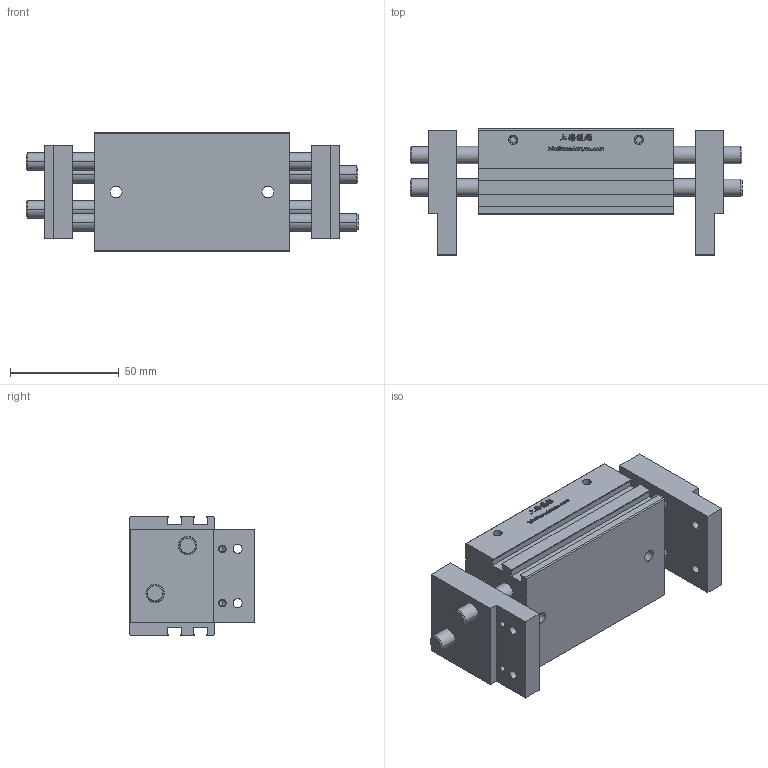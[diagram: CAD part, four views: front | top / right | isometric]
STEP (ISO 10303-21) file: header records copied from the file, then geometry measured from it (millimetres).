
FILE_DESCRIPTION (( 'STEP AP203' ), '1' );
FILE_NAME ('PLE-16-C-30+30-原始檔-組合-W106.04.20.STEP', '2017-04-20T05:29:01', ( 'DanyaoCAD' ), ( '' ), 'SwSTEP 2.0', 'SolidWorks 2016', '' );
FILE_SCHEMA (( 'CONFIG_CONTROL_DESIGN' ));
Length unit declared in the file: millimetre
Products named in the file (3): Corpo; PLE-16-C-30+30-原始檔-組合-W106.04.20; Griffa
Assembly tree (3 placements, depth 2):
  PLE-16-C-30+30-原始檔-組合-W106.04.20
    Griffa  x2
    Corpo
Bounding box: 153 x 58 x 55 mm (x, y, z)
Volume: 244996.1 mm3; surface area: 65933.3 mm2
Topology: 3 solids, 3 shells, 1004 faces, 2775 edges, 1816 vertices
Faces by surface type: bspline 640, plane 220, cylinder 83, cone 61
Entity records: 47331 total; most frequent: CARTESIAN_POINT 26705, ORIENTED_EDGE 5310, EDGE_CURVE 2655, DIRECTION 2182, VERTEX_POINT 1758, B_SPLINE_CURVE_WITH_KNOTS 1288, LINE 1216, VECTOR 1216
